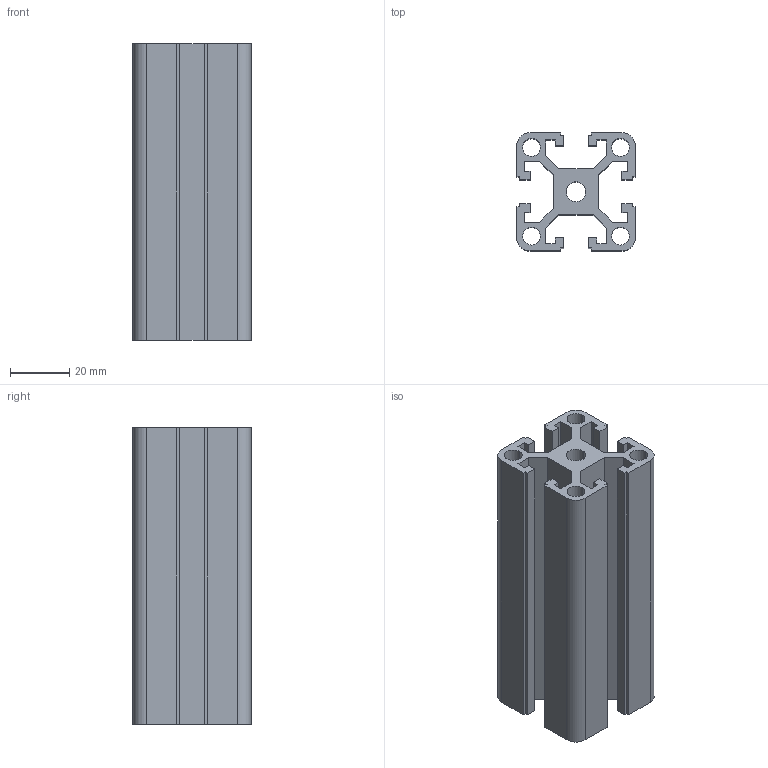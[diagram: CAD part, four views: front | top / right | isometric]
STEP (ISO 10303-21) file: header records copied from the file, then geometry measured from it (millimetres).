
FILE_DESCRIPTION (( 'STEP AP203' ), '1' );
FILE_NAME ('LIMA-4040H-8.STEP', '2018-03-15T12:29:25', ( '' ), ( '' ), 'SwSTEP 2.0', 'SolidWorks 2013', '' );
FILE_SCHEMA (( 'CONFIG_CONTROL_DESIGN' ));
Length unit declared in the file: millimetre
Products named in the file (1): LIMA-4040H-8
Bounding box: 40 x 40 x 100 mm (x, y, z)
Volume: 66946.3 mm3; surface area: 46959.1 mm2
Topology: 1 solids, 1 shells, 92 faces, 270 edges, 180 vertices
Faces by surface type: plane 78, cylinder 14
Entity records: 3119 total; most frequent: CARTESIAN_POINT 543, ORIENTED_EDGE 540, DIRECTION 484, EDGE_CURVE 270, VECTOR 242, LINE 242, VERTEX_POINT 180, AXIS2_PLACEMENT_3D 121
